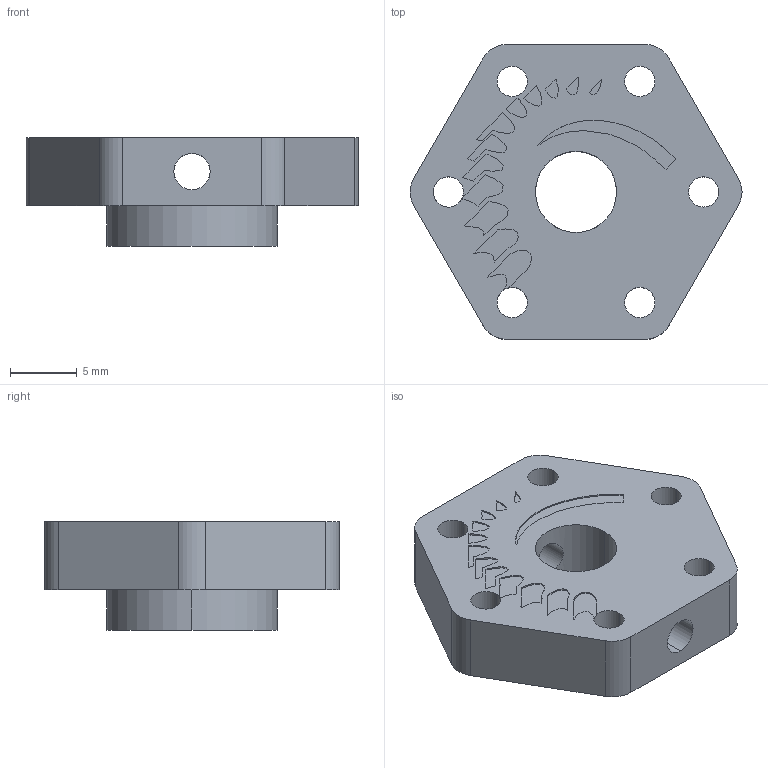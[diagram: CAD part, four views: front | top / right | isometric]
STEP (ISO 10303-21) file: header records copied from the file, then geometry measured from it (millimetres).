
FILE_DESCRIPTION (( 'STEP AP214' ), '1' );
FILE_NAME ('Sumo Hub R1.STEP', '2022-12-27T22:26:30', ( '' ), ( '' ), 'SwSTEP 2.0', 'SolidWorks 2015', '' );
FILE_SCHEMA (( 'AUTOMOTIVE_DESIGN' ));
Length unit declared in the file: millimetre
Products named in the file (1): Sumo Hub R1
Bounding box: 24.78 x 22 x 8.13 mm (x, y, z)
Volume: 2056.1 mm3; surface area: 1727.9 mm2
Topology: 1 solids, 1 shells, 283 faces, 807 edges, 538 vertices
Faces by surface type: plane 256, cylinder 27
Entity records: 12126 total; most frequent: CARTESIAN_POINT 1725, ORIENTED_EDGE 1614, DIRECTION 1425, EDGE_CURVE 807, LINE 749, VECTOR 749, VERTEX_POINT 538, AXIS2_PLACEMENT_3D 338
